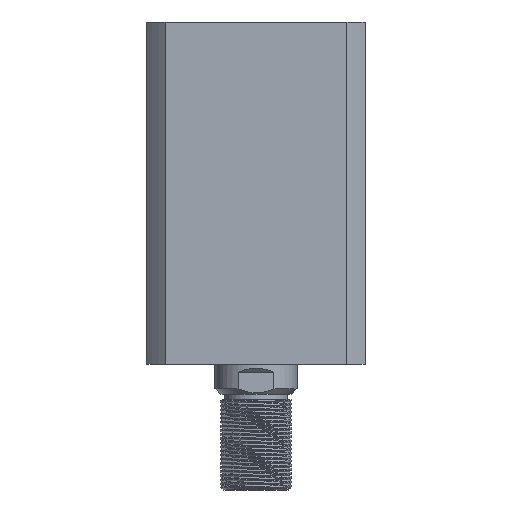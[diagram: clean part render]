
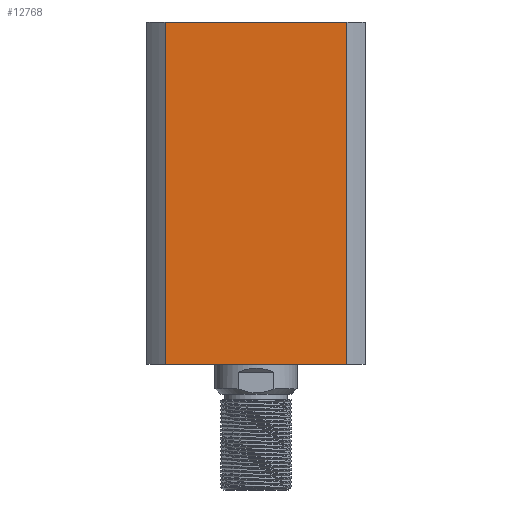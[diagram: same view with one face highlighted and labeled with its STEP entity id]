
A CAD part, left-side view. The second image highlights one B-rep face of the part: STEP entity #12768.
In plain terms, the highlighted planar face has unit normal (-1, 0, 0).
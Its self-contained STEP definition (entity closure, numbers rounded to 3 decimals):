
#277 = CARTESIAN_POINT ( 'NONE',  ( -40., -33.226, 62.5 ) ) ;
#423 = LINE ( 'NONE', #14822, #10175 ) ;
#944 = CARTESIAN_POINT ( 'NONE',  ( -40., 33.226, 62.5 ) ) ;
#1001 = DIRECTION ( 'NONE',  ( 0., -1., 0. ) ) ;
#2347 = EDGE_LOOP ( 'NONE', ( #15991, #5576, #3979, #14815 ) ) ;
#2497 = VERTEX_POINT ( 'NONE', #5206 ) ;
#3562 = PLANE ( 'NONE',  #12952 ) ;
#3979 = ORIENTED_EDGE ( 'NONE', *, *, #5031, .F. ) ;
#5020 = CARTESIAN_POINT ( 'NONE',  ( -40., 33.226, 62.5 ) ) ;
#5031 = EDGE_CURVE ( 'NONE', #17547, #13412, #15108, .T. ) ;
#5206 = CARTESIAN_POINT ( 'NONE',  ( -40., 33.226, -62.5 ) ) ;
#5576 = ORIENTED_EDGE ( 'NONE', *, *, #12467, .F. ) ;
#5623 = DIRECTION ( 'NONE',  ( 0., -1., 0. ) ) ;
#6031 = CARTESIAN_POINT ( 'NONE',  ( -40., -33.226, -62.5 ) ) ;
#6391 = CARTESIAN_POINT ( 'NONE',  ( -40., 33.226, 62.5 ) ) ;
#6415 = DIRECTION ( 'NONE',  ( 1., 0., 0. ) ) ;
#6543 = DIRECTION ( 'NONE',  ( 0., 0., -1. ) ) ;
#6654 = EDGE_CURVE ( 'NONE', #17547, #2497, #14870, .T. ) ;
#9964 = DIRECTION ( 'NONE',  ( 0., 0., -1. ) ) ;
#10175 = VECTOR ( 'NONE', #6543, 1000. ) ;
#11214 = VECTOR ( 'NONE', #9964, 1000. ) ;
#11235 = VECTOR ( 'NONE', #5623, 1000. ) ;
#12467 = EDGE_CURVE ( 'NONE', #13412, #17292, #423, .T. ) ;
#12768 = ADVANCED_FACE ( 'NONE', ( #16003 ), #3562, .F. ) ;
#12952 = AXIS2_PLACEMENT_3D ( 'NONE', #5020, #6415, #16085 ) ;
#13412 = VERTEX_POINT ( 'NONE', #277 ) ;
#14815 = ORIENTED_EDGE ( 'NONE', *, *, #6654, .T. ) ;
#14822 = CARTESIAN_POINT ( 'NONE',  ( -40., -33.226, 62.5 ) ) ;
#14870 = LINE ( 'NONE', #16832, #11214 ) ;
#15108 = LINE ( 'NONE', #944, #17712 ) ;
#15415 = CARTESIAN_POINT ( 'NONE',  ( -40., 33.226, -62.5 ) ) ;
#15991 = ORIENTED_EDGE ( 'NONE', *, *, #17087, .T. ) ;
#16003 = FACE_OUTER_BOUND ( 'NONE', #2347, .T. ) ;
#16085 = DIRECTION ( 'NONE',  ( 0., 1., 0. ) ) ;
#16832 = CARTESIAN_POINT ( 'NONE',  ( -40., 33.226, 62.5 ) ) ;
#17042 = LINE ( 'NONE', #15415, #11235 ) ;
#17087 = EDGE_CURVE ( 'NONE', #2497, #17292, #17042, .T. ) ;
#17292 = VERTEX_POINT ( 'NONE', #6031 ) ;
#17547 = VERTEX_POINT ( 'NONE', #6391 ) ;
#17712 = VECTOR ( 'NONE', #1001, 1000. ) ;
